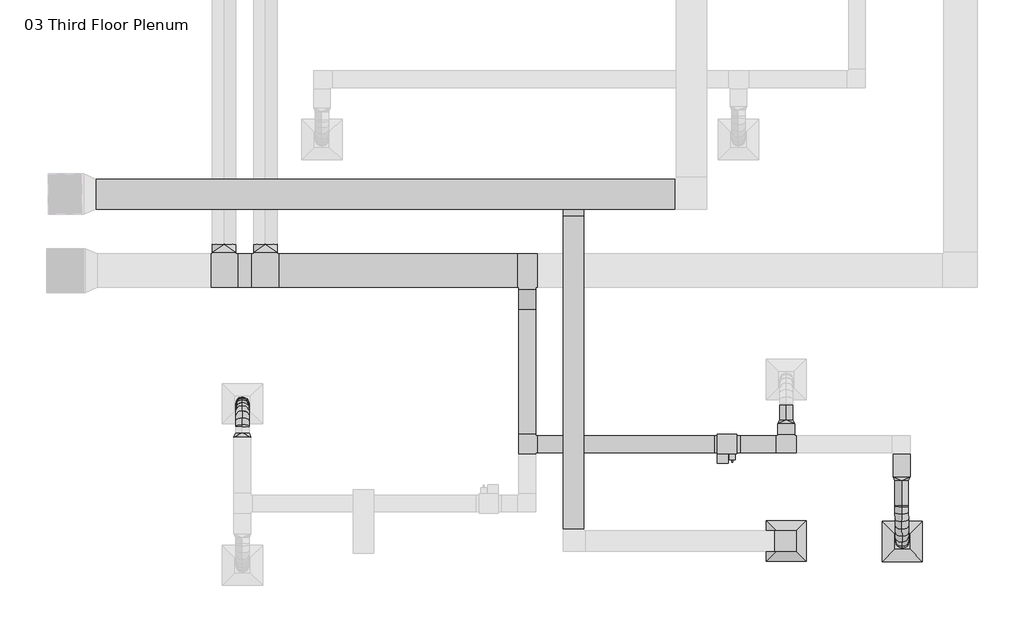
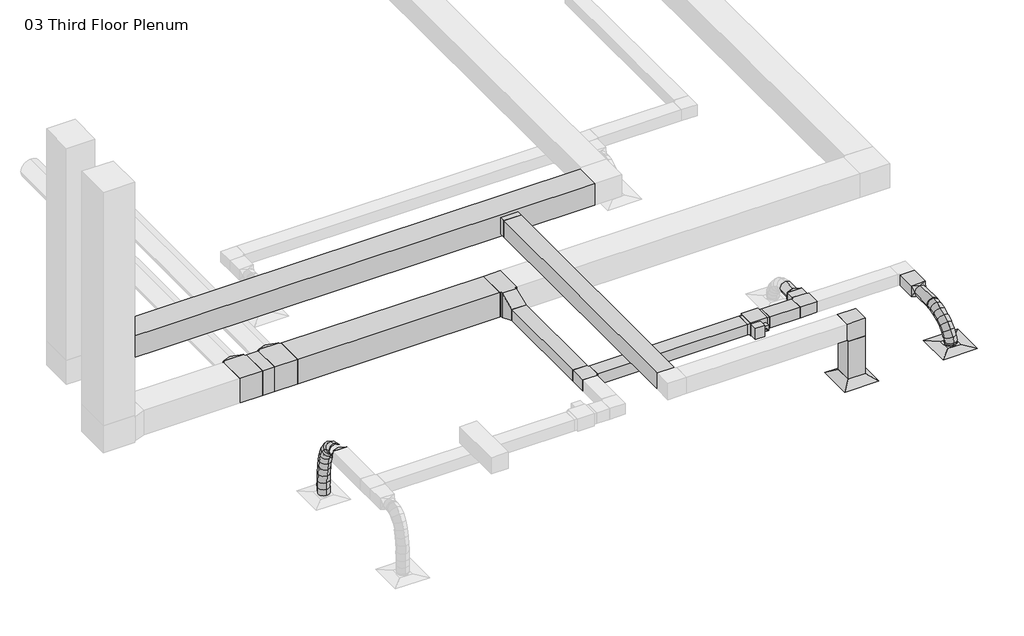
# One storey, part 2 of 9: 14 duct segments, 13 duct fittings, 2 air terminals, 1 proxy.
"""IFC4 building model written with IfcOpenShell, lengths in millimetres."""

from ifc_helpers import new_model, si_unit, point, frame, frame_2d, origin, place, context, project, spatial, polyline, circle_curve, ellipse_curve, trimmed, segment, composite_curve, outline, extrude, transform, mapped, element, save
from ifc_brep_helpers import plane_surface, cylinder_surface, advanced_brep
from components import return_diffuser_d30_returndiffuser_24x24_12x12_connection_ff543d60, supply_diffuser_rectangular_face_round_neck_d30_6390248a, bcn6785_vav_d30_vav1_8c327968, rectangular_elbow_mitered_standard_4ff1c4e8, rectangular_takeoff_standard_087f681d, rectangular_tee_standard_b316833c, rectangular_tee_standard_fc6ba10c, rectangular_tee_standard_dc794bcd, rectangular_transition_angle_45_degree_e9be1a90, rectangular_to_round_transition_angle_45_degree_e9430680, rectangular_to_round_transition_angle_45_degree_42cd8d9c

model = new_model("IFC4")

# Units and contexts
model_context = context("Model", 3, world=origin())
ifc_project = project(units=[si_unit("LENGTHUNIT", "METRE", prefix="MILLI")], contexts=[model_context])

# Site, building, storey
site = spatial("IfcSite", under=ifc_project)
building = spatial("IfcBuilding", under=site)
storey = spatial("IfcBuildingStorey", under=building, Name="03 Third Floor Plenum", Elevation=7620.0)

# Air terminals
placement = place(None, origin())
return_diffuser_d30_returndiffuser_24x24_12x12_connection_shape = return_diffuser_d30_returndiffuser_24x24_12x12_connection_ff543d60(model_context)
element("IfcAirTerminal", 1, ObjectType="Return Diffuser : D30_ReturnDiffuser_24x24 12x12 Connection", at=placement, inside=storey, context=model_context, shape_type="MappedRepresentation", body=[
    mapped(return_diffuser_d30_returndiffuser_24x24_12x12_connection_shape, transform((-6540.6685181, -5438.1828325, 7620.0), x_axis=(1.0, 0.0, 0.0), y_axis=(0.0, 1.0, 0.0), z_axis=(0.0, 0.0, 1.0))),
])
supply_diffuser_rectangular_face_round_neck_d30_shape = supply_diffuser_rectangular_face_round_neck_d30_6390248a(model_context)
element("IfcAirTerminal", 2, ObjectType="Supply Diffuser - Rectangular Face Round Neck : D30_SupplyDiffuser_24x24 8 Neck", at=placement, inside=storey, context=model_context, shape_type="MappedRepresentation", body=[
    mapped(supply_diffuser_rectangular_face_round_neck_d30_shape, transform((-4789.2792617, -5442.9453325, 7620.0), x_axis=(1.0, 0.0, 0.0), y_axis=(0.0, 1.0, 0.0), z_axis=(0.0, 0.0, 1.0))),
])

# Proxy
bcn6785_vav_d30_vav1_shape = bcn6785_vav_d30_vav1_8c327968(model_context)
element("IfcBuildingElementProxy", 3, Name="BCN6785_VAV : D30_VAV1", ObjectType="BCN6785_VAV : D30_VAV1", at=placement, inside=storey, context=model_context, shape_type="MappedRepresentation", body=[
    mapped(bcn6785_vav_d30_vav1_shape, transform((-7579.2653729, -3975.0664214, 7956.55), x_axis=(1.0, 0.0, 0.0), y_axis=(0.0, 1.0, 0.0), z_axis=(0.0, 0.0, 1.0))),
])

# Duct fittings
rectangular_elbow_mitered_standard_shape = rectangular_elbow_mitered_standard_4ff1c4e8(model_context)
element("IfcDuctFitting", 4, ObjectType="Rectangular Elbow - Mitered : Standard", at=placement, inside=storey, context=model_context, shape_type="MappedRepresentation", body=[
    mapped(rectangular_elbow_mitered_standard_shape, transform((-6540.6685181, -5438.1828325, 8610.6), x_axis=(0.0, 0.0, 1.0), y_axis=(-1.0, 0.0, 0.0), z_axis=(0.0, -1.0, 0.0))),
])
rectangular_takeoff_standard_shape = rectangular_takeoff_standard_087f681d(model_context)
element("IfcDuctFitting", 5, ObjectType="Rectangular Takeoff : Standard", at=placement, inside=storey, context=model_context, shape_type="MappedRepresentation", body=[
    mapped(rectangular_takeoff_standard_shape, transform((-9752.7160069, -429.9156743, 8610.6), x_axis=(0.0, -1.0, 0.0), y_axis=(-1.0, 0.0, 0.0), z_axis=(0.0, 0.0, -1.0))),
])
rectangular_tee_standard_shape = rectangular_tee_standard_b316833c(model_context)
element("IfcDuctFitting", 6, ObjectType="Rectangular Tee : Standard", at=placement, inside=storey, context=model_context, shape_type="MappedRepresentation", body=[
    mapped(rectangular_tee_standard_shape, transform((-10449.5105117, -3975.0664214, 8077.2), x_axis=(0.0, 1.0, 0.0), y_axis=(-1.0, 0.0, 0.0), z_axis=(0.0, 0.0, 1.0))),
])
element("IfcDuctFitting", 7, ObjectType="Rectangular Tee : Standard", at=placement, inside=storey, context=model_context, shape_type="MappedRepresentation", body=[
    mapped(rectangular_tee_standard_shape, transform((-6540.6685181, -3975.0664214, 8077.2), x_axis=(-1.0, 0.0, 0.0), y_axis=(0.0, -1.0, 0.0), z_axis=(0.0, 0.0, 1.0))),
])
rectangular_tee_standard_2_shape = rectangular_tee_standard_fc6ba10c(model_context)
element("IfcDuctFitting", 8, ObjectType="Rectangular Tee : Standard", at=placement, inside=storey, context=model_context, shape_type="MappedRepresentation", body=[
    mapped(rectangular_tee_standard_2_shape, transform((-10449.5105117, -1355.9265825, 8077.2), x_axis=(1.0, 0.0, 0.0), y_axis=(0.0, 1.0, 0.0), z_axis=(0.0, 0.0, 1.0))),
])
rectangular_tee_standard_3_shape = rectangular_tee_standard_dc794bcd(model_context)
element("IfcDuctFitting", 9, ObjectType="Rectangular Tee : Standard", at=placement, inside=storey, context=model_context, shape_type="MappedRepresentation", body=[
    mapped(rectangular_tee_standard_3_shape, transform((-14404.5975883, -1355.9265825, 8077.2), x_axis=(-1.0, 0.0, 0.0), y_axis=(0.0, -1.0, 0.0), z_axis=(0.0, 0.0, 1.0))),
])
element("IfcDuctFitting", 10, ObjectType="Rectangular Tee : Standard", at=placement, inside=storey, context=model_context, shape_type="MappedRepresentation", body=[
    mapped(rectangular_tee_standard_3_shape, transform((-15027.4046386, -1355.9265825, 8077.2), x_axis=(-1.0, 0.0, 0.0), y_axis=(0.0, -1.0, 0.0), z_axis=(0.0, 0.0, 1.0))),
])
rectangular_transition_angle_45_degree_shape = rectangular_transition_angle_45_degree_e9be1a90(model_context)
element("IfcDuctFitting", 11, ObjectType="Rectangular Transition - Angle : 45 Degree", at=placement, inside=storey, context=model_context, shape_type="MappedRepresentation", body=[
    mapped(rectangular_transition_angle_45_degree_shape, transform((-10449.5105117, -1635.3265825, 8077.2), x_axis=(0.0, -1.0, 0.0), y_axis=(1.0, 0.0, 0.0), z_axis=(0.0, 0.0, 1.0))),
])
rectangular_to_round_transition_angle_45_degree_shape = rectangular_to_round_transition_angle_45_degree_e9430680(model_context)
element("IfcDuctFitting", 12, ObjectType="Rectangular to Round Transition - Angle : 45 Degree", at=placement, inside=storey, context=model_context, shape_type="MappedRepresentation", body=[
    mapped(rectangular_to_round_transition_angle_45_degree_shape, transform((-4797.9653729, -4464.0164214, 8077.2), x_axis=(0.0, -1.0, 0.0), y_axis=(1.0, 0.0, 0.0), z_axis=(0.0, 0.0, 1.0))),
])
element("IfcDuctFitting", 13, ObjectType="Rectangular to Round Transition - Angle : 45 Degree", at=placement, inside=storey, context=model_context, shape_type="MappedRepresentation", body=[
    mapped(rectangular_to_round_transition_angle_45_degree_shape, transform((-6540.6685181, -3670.2664214, 8077.2), x_axis=(0.0, 1.0, 0.0), y_axis=(-1.0, 0.0, 0.0), z_axis=(0.0, 0.0, 1.0))),
])
element("IfcDuctFitting", 14, ObjectType="Rectangular to Round Transition - Angle : 45 Degree", at=placement, inside=storey, context=model_context, shape_type="MappedRepresentation", body=[
    mapped(rectangular_to_round_transition_angle_45_degree_shape, transform((-14752.2538818, -3867.6465968, 8077.2), x_axis=(0.0, 1.0, 0.0), y_axis=(-1.0, 0.0, 0.0), z_axis=(0.0, 0.0, 1.0))),
])
rectangular_to_round_transition_angle_45_degree_2_shape = rectangular_to_round_transition_angle_45_degree_42cd8d9c(model_context)
element("IfcDuctFitting", 15, ObjectType="Rectangular to Round Transition - Angle : 45 Degree", at=placement, inside=storey, context=model_context, shape_type="MappedRepresentation", body=[
    mapped(rectangular_to_round_transition_angle_45_degree_2_shape, transform((-14404.5975883, -1076.5265825, 8077.2), x_axis=(0.0, 1.0, 0.0), y_axis=(-1.0, 0.0, 0.0), z_axis=(0.0, 0.0, 1.0))),
])
element("IfcDuctFitting", 16, ObjectType="Rectangular to Round Transition - Angle : 45 Degree", at=placement, inside=storey, context=model_context, shape_type="MappedRepresentation", body=[
    mapped(rectangular_to_round_transition_angle_45_degree_2_shape, transform((-15027.4046386, -1076.5265825, 8077.2), x_axis=(0.0, 1.0, 0.0), y_axis=(-1.0, 0.0, 0.0), z_axis=(0.0, 0.0, 1.0))),
])

# Duct segments
element("IfcDuctSegment", 17, ObjectType="Flex - Round", at=placement, inside=storey, context=model_context, shape_type="AdvancedBrep", body=[
    advanced_brep(
    [(-4696.3653729, -4906.3374458, 8077.2), (-4797.9653729, -4906.3374458, 7975.6), (-4899.5653729, -4906.3374458, 8077.2), (-4797.9653729, -4906.3374458, 8178.8), (-4696.3653729, -4916.7494164, 8077.2), (-4797.9653729, -4911.029317, 7975.6), (-4899.5653729, -4917.2937459, 8077.2), (-4797.9653729, -4923.0138453, 8178.8), (-4687.6934547, -5441.2471497, 7673.975), (-4787.5810788, -5544.5311395, 7673.975), (-4890.8650686, -5444.6435153, 7673.975), (-4790.9774445, -5341.3595256, 7673.975), (-4695.8873742, -5005.6576946, 8066.6758774), (-4797.5609736, -4986.2480168, 7966.6963205), (-4899.081062, -5007.3760912, 8066.5369024), (-4797.4074626, -5026.7857689, 8166.5164594), (-4694.652595, -5109.204036, 8036.6197325), (-4796.5076566, -5074.5772767, 7941.0572009), (-4897.8340951, -5111.9444759, 8036.1840915), (-4795.9790335, -5146.5712352, 8131.7466232), (-4692.9609961, -5209.8047292, 7989.3116852), (-4795.0583817, -5160.7667696, 7900.5261023), (-4896.1322861, -5213.1523705, 7988.5905043), (-4794.0349005, -5262.1903301, 8077.3760872), (-4691.1151896, -5300.3855473, 7927.0748516), (-4793.5132463, -5236.5925016, 7848.4272853), (-4894.2807975, -5304.012032, 7926.1620812), (-4791.8827407, -5367.8050777, 8004.8096475), (-4689.4186979, -5373.881551, 7852.2343058), (-4792.1824991, -5294.2435973, 7789.7215155), (-4892.5838812, -5377.5264291, 7851.3028054), (-4789.82008, -5457.1643828, 7913.8155956), (-4688.1760647, -5423.2106014, 7767.111064), (-4791.2878035, -5329.7604998, 7728.4328053), (-4891.3447684, -5426.7157307, 7766.4207173), (-4788.2330295, -5520.1658323, 7805.098976), (-4687.6934547, -5441.2471497, 7693.4343815), (-4790.9774445, -5341.3595256, 7681.0524682), (-4890.8650686, -5444.6435153, 7693.1883185), (-4787.5810788, -5544.5311395, 7705.5702318)],
    [
        (0, 1, circle_curve(frame((-4797.9653729, -4906.3374458, 8077.2), z_axis=(0.0, 1.0, 0.0), x_axis=(1.0, 0.0, 0.0)), 101.6)),
        (1, 2, circle_curve(frame((-4797.9653729, -4906.3374458, 8077.2), z_axis=(0.0, 1.0, 0.0), x_axis=(1.0, 0.0, 0.0)), 101.6)),
        (2, 3, circle_curve(frame((-4797.9653729, -4906.3374458, 8077.2), z_axis=(0.0, 1.0, 0.0), x_axis=(1.0, 0.0, 0.0)), 101.6)),
        (3, 0, circle_curve(frame((-4797.9653729, -4906.3374458, 8077.2), z_axis=(0.0, 1.0, 0.0), x_axis=(1.0, 0.0, 0.0)), 101.6)),
        (0, 4),
        (4, 5, ellipse_curve(frame((-4797.9653729, -4917.0215812, 8077.2), z_axis=(-0.0026741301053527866, 0.9982616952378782, 0.05887645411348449), x_axis=(0.04529369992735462, 0.058937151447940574, -0.9972336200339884)), 101.7769193, 101.6)),
        (5, 1),
        (5, 6, ellipse_curve(frame((-4797.9653729, -4917.0215812, 8077.2), z_axis=(-0.0026741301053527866, 0.9982616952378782, 0.05887645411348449), x_axis=(0.04529369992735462, 0.058937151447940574, -0.9972336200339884)), 101.7769193, 101.6)),
        (6, 2),
        (6, 7, ellipse_curve(frame((-4797.9653729, -4917.0215812, 8077.2), z_axis=(-0.0026741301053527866, 0.9982616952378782, 0.05887645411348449), x_axis=(0.04529369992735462, 0.058937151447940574, -0.9972336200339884)), 101.7769193, 101.6)),
        (7, 3),
        (7, 4, ellipse_curve(frame((-4797.9653729, -4917.0215812, 8077.2), z_axis=(-0.0026741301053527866, 0.9982616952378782, 0.05887645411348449), x_axis=(0.04529369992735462, 0.058937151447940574, -0.9972336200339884)), 101.7769193, 101.6)),
        (8, 9, circle_curve(frame((-4789.2792617, -5442.9453325, 7673.975), z_axis=(0.0, 0.0, -1.0), x_axis=(0.9998603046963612, 0.016714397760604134, 0.0)), 101.6)),
        (9, 10, circle_curve(frame((-4789.2792617, -5442.9453325, 7673.975), z_axis=(0.0, 0.0, -1.0), x_axis=(0.9998603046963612, 0.016714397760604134, 0.0)), 101.6)),
        (10, 11, circle_curve(frame((-4789.2792617, -5442.9453325, 7673.975), z_axis=(0.0, 0.0, -1.0), x_axis=(0.9998603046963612, 0.016714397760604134, 0.0)), 101.6)),
        (11, 8, circle_curve(frame((-4789.2792617, -5442.9453325, 7673.975), z_axis=(0.0, 0.0, -1.0), x_axis=(0.9998603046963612, 0.016714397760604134, 0.0)), 101.6)),
        (4, 12),
        (12, 13, ellipse_curve(frame((-4797.4842181, -5006.5168929, 8066.6063899), z_axis=(-0.008423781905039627, 0.9799997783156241, 0.198820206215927), x_axis=(0.03713472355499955, 0.19899669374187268, -0.9792963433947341)), 101.9458531, 101.6)),
        (13, 5),
        (13, 14, ellipse_curve(frame((-4797.4842181, -5006.5168929, 8066.6063899), z_axis=(-0.008423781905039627, 0.9799997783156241, 0.198820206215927), x_axis=(0.03713472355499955, 0.19899669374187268, -0.9792963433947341)), 101.9458531, 101.6)),
        (14, 6),
        (14, 15, ellipse_curve(frame((-4797.4842181, -5006.5168929, 8066.6063899), z_axis=(-0.008423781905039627, 0.9799997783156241, 0.198820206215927), x_axis=(0.03713472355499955, 0.19899669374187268, -0.9792963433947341)), 101.9458531, 101.6)),
        (15, 7),
        (15, 12, ellipse_curve(frame((-4797.4842181, -5006.5168929, 8066.6063899), z_axis=(-0.008423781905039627, 0.9799997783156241, 0.198820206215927), x_axis=(0.03713472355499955, 0.19899669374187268, -0.9792963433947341)), 101.9458531, 101.6)),
        (12, 16),
        (16, 17, ellipse_curve(frame((-4796.2433451, -5110.5742559, 8036.401912), z_axis=(-0.01337430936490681, 0.9354479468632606, 0.35321136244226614), x_axis=(0.023979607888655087, 0.353441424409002, -0.9351492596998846)), 101.9142373, 101.6)),
        (17, 13),
        (17, 18, ellipse_curve(frame((-4796.2433451, -5110.5742559, 8036.401912), z_axis=(-0.01337430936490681, 0.9354479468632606, 0.35321136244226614), x_axis=(0.023979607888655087, 0.353441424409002, -0.9351492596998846)), 101.9142373, 101.6)),
        (18, 14),
        (18, 19, ellipse_curve(frame((-4796.2433451, -5110.5742559, 8036.401912), z_axis=(-0.01337430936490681, 0.9354479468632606, 0.35321136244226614), x_axis=(0.023979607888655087, 0.353441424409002, -0.9351492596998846)), 101.9142373, 101.6)),
        (19, 15),
        (19, 16, ellipse_curve(frame((-4796.2433451, -5110.5742559, 8036.401912), z_axis=(-0.01337430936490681, 0.9354479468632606, 0.35321136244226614), x_axis=(0.023979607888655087, 0.353441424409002, -0.9351492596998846)), 101.9142373, 101.6)),
        (16, 20),
        (20, 21, ellipse_curve(frame((-4794.5466411, -5211.4785499, 7988.9510947), z_axis=(-0.016056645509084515, 0.8673159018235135, 0.4974990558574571), x_axis=(0.009726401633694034, 0.4976751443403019, -0.8673089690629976)), 101.9359642, 101.6)),
        (21, 17),
        (21, 22, ellipse_curve(frame((-4794.5466411, -5211.4785499, 7988.9510947), z_axis=(-0.016056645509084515, 0.8673159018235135, 0.4974990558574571), x_axis=(0.009726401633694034, 0.4976751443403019, -0.8673089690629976)), 101.9359642, 101.6)),
        (22, 18),
        (22, 23, ellipse_curve(frame((-4794.5466411, -5211.4785499, 7988.9510947), z_axis=(-0.016056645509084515, 0.8673159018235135, 0.4974990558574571), x_axis=(0.009726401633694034, 0.4976751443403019, -0.8673089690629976)), 101.9359642, 101.6)),
        (23, 19),
        (23, 20, ellipse_curve(frame((-4794.5466411, -5211.4785499, 7988.9510947), z_axis=(-0.016056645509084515, 0.8673159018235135, 0.4974990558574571), x_axis=(0.009726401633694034, 0.4976751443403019, -0.8673089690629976)), 101.9359642, 101.6)),
        (20, 24),
        (24, 25, ellipse_curve(frame((-4792.6979935, -5302.1987896, 7926.6184664), z_axis=(-0.016558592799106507, 0.7658732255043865, 0.6427783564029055), x_axis=(-0.0032346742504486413, 0.6428220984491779, -0.7660086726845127)), 102.0720954, 101.6)),
        (25, 21),
        (25, 26, ellipse_curve(frame((-4792.6979935, -5302.1987896, 7926.6184664), z_axis=(-0.016558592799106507, 0.7658732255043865, 0.6427783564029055), x_axis=(-0.0032346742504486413, 0.6428220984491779, -0.7660086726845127)), 102.0720954, 101.6)),
        (26, 22),
        (26, 27, ellipse_curve(frame((-4792.6979935, -5302.1987896, 7926.6184664), z_axis=(-0.016558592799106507, 0.7658732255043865, 0.6427783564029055), x_axis=(-0.0032346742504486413, 0.6428220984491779, -0.7660086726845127)), 102.0720954, 101.6)),
        (27, 23),
        (27, 24, ellipse_curve(frame((-4792.6979935, -5302.1987896, 7926.6184664), z_axis=(-0.016558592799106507, 0.7658732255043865, 0.6427783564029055), x_axis=(-0.0032346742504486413, 0.6428220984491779, -0.7660086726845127)), 102.0720954, 101.6)),
        (24, 28),
        (28, 29, ellipse_curve(frame((-4791.0012896, -5375.7039901, 7851.7685556), z_axis=(-0.014514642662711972, 0.6057348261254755, 0.795534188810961), x_axis=(-0.014140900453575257, 0.7954140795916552, -0.6059013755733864)), 102.4061871, 101.6)),
        (29, 25),
        (29, 30, ellipse_curve(frame((-4791.0012896, -5375.7039901, 7851.7685556), z_axis=(-0.014514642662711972, 0.6057348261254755, 0.795534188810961), x_axis=(-0.014140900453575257, 0.7954140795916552, -0.6059013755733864)), 102.4061871, 101.6)),
        (30, 26),
        (30, 31, ellipse_curve(frame((-4791.0012896, -5375.7039901, 7851.7685556), z_axis=(-0.014514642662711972, 0.6057348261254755, 0.795534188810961), x_axis=(-0.014140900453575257, 0.7954140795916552, -0.6059013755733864)), 102.4061871, 101.6)),
        (31, 27),
        (31, 28, ellipse_curve(frame((-4791.0012896, -5375.7039901, 7851.7685556), z_axis=(-0.014514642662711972, 0.6057348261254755, 0.795534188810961), x_axis=(-0.014140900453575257, 0.7954140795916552, -0.6059013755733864)), 102.4061871, 101.6)),
        (28, 32),
        (32, 33, ellipse_curve(frame((-4789.7604165, -5424.9631661, 7766.7658906), z_axis=(-0.009593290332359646, 0.3733569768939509, 0.9276381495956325), x_axis=(-0.022050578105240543, 0.927376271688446, -0.3734796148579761)), 102.6416931, 101.6)),
        (33, 29),
        (33, 34, ellipse_curve(frame((-4789.7604165, -5424.9631661, 7766.7658906), z_axis=(-0.009593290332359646, 0.3733569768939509, 0.9276381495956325), x_axis=(-0.022050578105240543, 0.927376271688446, -0.3734796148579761)), 102.6416931, 101.6)),
        (34, 30),
        (34, 35, ellipse_curve(frame((-4789.7604165, -5424.9631661, 7766.7658906), z_axis=(-0.009593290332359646, 0.3733569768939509, 0.9276381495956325), x_axis=(-0.022050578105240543, 0.927376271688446, -0.3734796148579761)), 102.6416931, 101.6)),
        (35, 31),
        (35, 32, ellipse_curve(frame((-4789.7604165, -5424.9631661, 7766.7658906), z_axis=(-0.009593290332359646, 0.3733569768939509, 0.9276381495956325), x_axis=(-0.022050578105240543, 0.927376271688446, -0.3734796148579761)), 102.6416931, 101.6)),
        (32, 36),
        (36, 37, ellipse_curve(frame((-4789.2792617, -5442.9453325, 7693.31135), z_axis=(-0.0032042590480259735, 0.11975254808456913, 0.9927985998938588), x_axis=(-0.026555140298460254, 0.9924433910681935, -0.11979540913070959)), 102.3369695, 101.6)),
        (37, 33),
        (37, 38, ellipse_curve(frame((-4789.2792617, -5442.9453325, 7693.31135), z_axis=(-0.0032042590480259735, 0.11975254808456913, 0.9927985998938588), x_axis=(-0.026555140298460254, 0.9924433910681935, -0.11979540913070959)), 102.3369695, 101.6)),
        (38, 34),
        (38, 39, ellipse_curve(frame((-4789.2792617, -5442.9453325, 7693.31135), z_axis=(-0.0032042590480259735, 0.11975254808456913, 0.9927985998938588), x_axis=(-0.026555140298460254, 0.9924433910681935, -0.11979540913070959)), 102.3369695, 101.6)),
        (39, 35),
        (39, 36, ellipse_curve(frame((-4789.2792617, -5442.9453325, 7693.31135), z_axis=(-0.0032042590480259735, 0.11975254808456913, 0.9927985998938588), x_axis=(-0.026555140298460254, 0.9924433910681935, -0.11979540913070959)), 102.3369695, 101.6)),
        (36, 8),
        (11, 37),
        (10, 38),
        (9, 39),
    ],
    [
        plane_surface(frame((-4899.5653729, -4906.3374458, 8077.2), z_axis=(0.0, 1.0, 0.0), x_axis=(0.0, 0.0, -1.0))),
        cylinder_surface(frame((-4797.9653729, -4906.3374458, 8077.2), z_axis=(0.0, 1.0, 0.0), x_axis=(1.0, 0.0, 0.0)), 101.6),
        plane_surface(frame((-4789.2792617, -5544.5453325, 7673.975), z_axis=(0.0, 0.0, -1.0), x_axis=(-1.0, 0.0, 0.0))),
        cylinder_surface(frame((-4797.9653729, -4917.0215812, 8077.2), z_axis=(-0.005338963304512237, 0.9930528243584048, 0.11754821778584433), x_axis=(0.9999856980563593, 0.005338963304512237, 0.00031488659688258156)), 101.6),
        cylinder_surface(frame((-4797.4842181, -5006.5168929, 8066.6063899), z_axis=(-0.011451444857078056, 0.9602974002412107, 0.2787431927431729), x_axis=(0.9999329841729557, 0.01147155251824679, 0.0015590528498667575)), 101.6),
        cylinder_surface(frame((-4796.2433451, -5110.5742559, 8036.401912), z_axis=(-0.015214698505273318, 0.9048298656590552, 0.4255013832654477), x_axis=(0.9998770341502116, 0.015384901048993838, 0.0030366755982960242)), 101.6),
        cylinder_surface(frame((-4794.5466411, -5211.4785499, 7988.9510947), z_axis=(-0.016792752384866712, 0.824084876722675, 0.5662173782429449), x_axis=(0.9998384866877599, 0.017467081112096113, 0.004231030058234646)), 101.6),
        cylinder_surface(frame((-4792.6979935, -5302.1987896, 7926.6184664), z_axis=(-0.016171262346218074, 0.7005770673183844, 0.7133934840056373), x_axis=(0.9998232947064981, 0.018169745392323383, 0.004820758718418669)), 101.6),
        cylinder_surface(frame((-4791.0012896, -5375.7039901, 7851.7685556), z_axis=(-0.012629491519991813, 0.5013553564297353, 0.8651492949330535), x_axis=(0.9998328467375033, 0.01777111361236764, 0.004297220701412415)), 101.6),
        cylinder_surface(frame((-4789.7604165, -5424.9631661, 7766.7658906), z_axis=(-0.006362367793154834, 0.2377803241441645, 0.9712981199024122), x_axis=(0.9998526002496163, 0.017002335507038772, 0.00238712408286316)), 101.6),
        cylinder_surface(frame((-4789.2792617, -5442.9453325, 7693.31135), z_axis=(0.0, 0.0, 1.0), x_axis=(0.9998603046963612, 0.016714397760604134, 0.0)), 101.6),
    ],
    [
        (0, [[1, 2, 3, 4]]),
        (1, [[-1, 5, 6, 7]]),
        (1, [[-2, -7, 8, 9]]),
        (1, [[-3, -9, 10, 11]]),
        (1, [[-4, -11, 12, -5]]),
        (2, [[13, 14, 15, 16]]),
        (3, [[-6, 17, 18, 19]]),
        (3, [[-8, -19, 20, 21]]),
        (3, [[-10, -21, 22, 23]]),
        (3, [[-12, -23, 24, -17]]),
        (4, [[-18, 25, 26, 27]]),
        (4, [[-20, -27, 28, 29]]),
        (4, [[-22, -29, 30, 31]]),
        (4, [[-24, -31, 32, -25]]),
        (5, [[-26, 33, 34, 35]]),
        (5, [[-28, -35, 36, 37]]),
        (5, [[-30, -37, 38, 39]]),
        (5, [[-32, -39, 40, -33]]),
        (6, [[-34, 41, 42, 43]]),
        (6, [[-36, -43, 44, 45]]),
        (6, [[-38, -45, 46, 47]]),
        (6, [[-40, -47, 48, -41]]),
        (7, [[-42, 49, 50, 51]]),
        (7, [[-44, -51, 52, 53]]),
        (7, [[-46, -53, 54, 55]]),
        (7, [[-48, -55, 56, -49]]),
        (8, [[-50, 57, 58, 59]]),
        (8, [[-52, -59, 60, 61]]),
        (8, [[-54, -61, 62, 63]]),
        (8, [[-56, -63, 64, -57]]),
        (9, [[-58, 65, 66, 67]]),
        (9, [[-60, -67, 68, 69]]),
        (9, [[-62, -69, 70, 71]]),
        (9, [[-64, -71, 72, -65]]),
        (10, [[-66, 73, -16, 74]]),
        (10, [[-68, -74, -15, 75]]),
        (10, [[-70, -75, -14, 76]]),
        (10, [[-72, -76, -13, -73]]),
    ],
),
])
element("IfcDuctSegment", 18, ObjectType="Flex - Round", at=placement, inside=storey, context=model_context, shape_type="AdvancedBrep", body=[
    advanced_brep(
    [(-14853.8538818, -3715.2465968, 8077.2), (-14752.2538818, -3715.2465968, 7975.6), (-14650.6538818, -3715.2465968, 8077.2), (-14752.2538818, -3715.2465968, 8178.8), (-14853.8538818, -3695.9300446, 8077.2), (-14752.2538818, -3708.0503883, 7975.6), (-14650.6538818, -3695.923682, 8077.2), (-14752.2538818, -3683.8033383, 8178.8), (-14854.029259, -3364.9308734, 7064.3792993), (-14752.4522964, -3263.3079383, 7064.5198042), (-14650.8292644, -3364.8847916, 7064.3707007), (-14752.4062269, -3466.5077267, 7064.2301958), (-14853.8587919, -3618.6397605, 8058.4880804), (-14752.2569043, -3660.4723136, 7964.0813839), (-14650.6587929, -3618.6182407, 8058.4844109), (-14752.2606805, -3576.7856876, 8152.8911074), (-14853.8721196, -3541.650978, 8006.1674235), (-14752.2651321, -3612.9434954, 7931.7813669), (-14650.672123, -3541.6152542, 8006.1541011), (-14752.2791104, -3470.3227368, 8080.5401577), (-14853.8917609, -3482.0544059, 7925.958949), (-14752.2790969, -3570.5709497, 7874.753972), (-14650.6917668, -3482.0111504, 7925.9354901), (-14752.3044308, -3393.4946066, 7977.1404671), (-14853.9156118, -3437.6248343, 7823.5842081), (-14752.2988092, -3533.8507754, 7790.1432455), (-14650.7156192, -3437.5788085, 7823.5543657), (-14752.3324218, -3341.3528674, 7856.9953283), (-14853.9415677, -3406.1374609, 7704.7669414), (-14752.3220747, -3505.6271763, 7683.6417959), (-14650.7415757, -3406.0907004, 7704.7343266), (-14752.3610687, -3306.6009851, 7725.8594721), (-14853.967524, -3385.3667608, 7575.2311745), (-14752.3463411, -3486.2087715, 7562.5395735), (-14650.7675319, -3385.3200205, 7575.1986862), (-14752.3887148, -3284.4780098, 7587.8902872), (-14853.9913759, -3373.0868316, 7440.700725), (-14752.3691693, -3474.4558706, 7433.7828826), (-14650.7913833, -3373.0403405, 7440.6709661), (-14752.4135899, -3271.6713015, 7447.5888085), (-14854.0110188, -3367.0716212, 7306.8991242), (-14752.3882492, -3468.6130786, 7303.8165366), (-14650.8110255, -3367.0253822, 7306.8749742), (-14752.4337951, -3265.4839248, 7309.9575618), (-14854.0243482, -3365.0950174, 7179.5494986), (-14752.4013468, -3466.670846, 7178.6813889), (-14650.8243539, -3365.0489271, 7179.5349231), (-14752.4473553, -3263.4730986, 7180.4030328)],
    [
        (0, 1, circle_curve(frame((-14752.2538818, -3715.2465968, 8077.2), z_axis=(0.0, -1.0, 0.0), x_axis=(-1.0, 0.0, 0.0)), 101.6)),
        (1, 2, circle_curve(frame((-14752.2538818, -3715.2465968, 8077.2), z_axis=(0.0, -1.0, 0.0), x_axis=(-1.0, 0.0, 0.0)), 101.6)),
        (2, 3, circle_curve(frame((-14752.2538818, -3715.2465968, 8077.2), z_axis=(0.0, -1.0, 0.0), x_axis=(-1.0, 0.0, 0.0)), 101.6)),
        (3, 0, circle_curve(frame((-14752.2538818, -3715.2465968, 8077.2), z_axis=(0.0, -1.0, 0.0), x_axis=(-1.0, 0.0, 0.0)), 101.6)),
        (0, 4),
        (4, 5, ellipse_curve(frame((-14752.2538818, -3695.9268633, 8077.2), z_axis=(3.1091524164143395e-05, -0.9929557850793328, 0.11848547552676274), x_axis=(-0.0002605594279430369, -0.1184854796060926, -0.992955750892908)), 102.3207695, 101.6)),
        (5, 1),
        (5, 6, ellipse_curve(frame((-14752.2538818, -3695.9268633, 8077.2), z_axis=(3.1091524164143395e-05, -0.9929557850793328, 0.11848547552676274), x_axis=(-0.0002605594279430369, -0.1184854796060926, -0.992955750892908)), 102.3207695, 101.6)),
        (6, 2),
        (6, 7, ellipse_curve(frame((-14752.2538818, -3695.9268633, 8077.2), z_axis=(3.1091524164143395e-05, -0.9929557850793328, 0.11848547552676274), x_axis=(-0.0002605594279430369, -0.1184854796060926, -0.992955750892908)), 102.3207695, 101.6)),
        (7, 3),
        (7, 4, ellipse_curve(frame((-14752.2538818, -3695.9268633, 8077.2), z_axis=(3.1091524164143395e-05, -0.9929557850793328, 0.11848547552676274), x_axis=(-0.0002605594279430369, -0.1184854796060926, -0.992955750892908)), 102.3207695, 101.6)),
        (8, 9, circle_curve(frame((-14752.4292617, -3364.9078325, 7064.375), z_axis=(-4.263914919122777e-05, 0.0014252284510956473, -0.9999989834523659), x_axis=(-0.9999999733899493, -0.0002267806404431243, 4.2315976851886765e-05)), 101.6)),
        (9, 10, circle_curve(frame((-14752.4292617, -3364.9078325, 7064.375), z_axis=(-4.263914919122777e-05, 0.0014252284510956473, -0.9999989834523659), x_axis=(-0.9999999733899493, -0.0002267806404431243, 4.2315976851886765e-05)), 101.6)),
        (10, 11, circle_curve(frame((-14752.4292617, -3364.9078325, 7064.375), z_axis=(-4.263914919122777e-05, 0.0014252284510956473, -0.9999989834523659), x_axis=(-0.9999999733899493, -0.0002267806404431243, 4.2315976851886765e-05)), 101.6)),
        (11, 8, circle_curve(frame((-14752.4292617, -3364.9078325, 7064.375), z_axis=(-4.263914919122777e-05, 0.0014252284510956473, -0.9999989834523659), x_axis=(-0.9999999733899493, -0.0002267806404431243, 4.2315976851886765e-05)), 101.6)),
        (4, 12),
        (12, 13, ellipse_curve(frame((-14752.2587924, -3618.6290006, 8058.4862456), z_axis=(0.00010413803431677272, -0.9142222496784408, 0.4052131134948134), x_axis=(-0.00022782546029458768, -0.40521312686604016, -0.9142222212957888)), 103.2624849, 101.6)),
        (13, 5),
        (13, 14, ellipse_curve(frame((-14752.2587924, -3618.6290006, 8058.4862456), z_axis=(0.00010413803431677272, -0.9142222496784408, 0.4052131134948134), x_axis=(-0.00022782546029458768, -0.40521312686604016, -0.9142222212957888)), 103.2624849, 101.6)),
        (14, 6),
        (14, 15, ellipse_curve(frame((-14752.2587924, -3618.6290006, 8058.4862456), z_axis=(0.00010413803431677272, -0.9142222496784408, 0.4052131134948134), x_axis=(-0.00022782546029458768, -0.40521312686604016, -0.9142222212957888)), 103.2624849, 101.6)),
        (15, 7),
        (15, 12, ellipse_curve(frame((-14752.2587924, -3618.6290006, 8058.4862456), z_axis=(0.00010413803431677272, -0.9142222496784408, 0.4052131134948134), x_axis=(-0.00022782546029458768, -0.40521312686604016, -0.9142222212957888)), 103.2624849, 101.6)),
        (12, 16),
        (16, 17, ellipse_curve(frame((-14752.2721213, -3541.6331161, 8006.1607623), z_axis=(0.0001722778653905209, -0.7218421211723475, 0.6920577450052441), x_axis=(-0.00016015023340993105, -0.6920577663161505, -0.7218421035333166)), 103.0410827, 101.6)),
        (17, 13),
        (17, 18, ellipse_curve(frame((-14752.2721213, -3541.6331161, 8006.1607623), z_axis=(0.0001722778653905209, -0.7218421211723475, 0.6920577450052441), x_axis=(-0.00016015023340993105, -0.6920577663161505, -0.7218421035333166)), 103.0410827, 101.6)),
        (18, 14),
        (18, 19, ellipse_curve(frame((-14752.2721213, -3541.6331161, 8006.1607623), z_axis=(0.0001722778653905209, -0.7218421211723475, 0.6920577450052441), x_axis=(-0.00016015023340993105, -0.6920577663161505, -0.7218421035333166)), 103.0410827, 101.6)),
        (19, 15),
        (19, 16, ellipse_curve(frame((-14752.2721213, -3541.6331161, 8006.1607623), z_axis=(0.0001722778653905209, -0.7218421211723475, 0.6920577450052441), x_axis=(-0.00016015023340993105, -0.6920577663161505, -0.7218421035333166)), 103.0410827, 101.6)),
        (16, 20),
        (20, 21, ellipse_curve(frame((-14752.2917638, -3482.0327781, 7925.9472195), z_axis=(0.0002064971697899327, -0.5005550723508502, 0.8657046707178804), x_axis=(-7.491086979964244e-05, -0.8657046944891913, -0.5005550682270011)), 102.2729514, 101.6)),
        (21, 17),
        (21, 22, ellipse_curve(frame((-14752.2917638, -3482.0327781, 7925.9472195), z_axis=(0.0002064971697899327, -0.5005550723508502, 0.8657046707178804), x_axis=(-7.491086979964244e-05, -0.8657046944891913, -0.5005550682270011)), 102.2729514, 101.6)),
        (22, 18),
        (22, 23, ellipse_curve(frame((-14752.2917638, -3482.0327781, 7925.9472195), z_axis=(0.0002064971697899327, -0.5005550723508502, 0.8657046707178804), x_axis=(-7.491086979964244e-05, -0.8657046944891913, -0.5005550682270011)), 102.2729514, 101.6)),
        (23, 19),
        (23, 20, ellipse_curve(frame((-14752.2917638, -3482.0327781, 7925.9472195), z_axis=(0.0002064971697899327, -0.5005550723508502, 0.8657046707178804), x_axis=(-7.491086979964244e-05, -0.8657046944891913, -0.5005550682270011)), 102.2729514, 101.6)),
        (20, 24),
        (24, 25, ellipse_curve(frame((-14752.3156155, -3437.6018214, 7823.5692869), z_axis=(0.00021304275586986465, -0.32806652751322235, 0.9446545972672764), x_axis=(1.699930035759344e-05, -0.9446546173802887, -0.3280665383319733)), 101.8879859, 101.6)),
        (25, 21),
        (25, 26, ellipse_curve(frame((-14752.3156155, -3437.6018214, 7823.5692869), z_axis=(0.00021304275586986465, -0.32806652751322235, 0.9446545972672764), x_axis=(1.699930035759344e-05, -0.9446546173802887, -0.3280665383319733)), 101.8879859, 101.6)),
        (26, 22),
        (26, 27, ellipse_curve(frame((-14752.3156155, -3437.6018214, 7823.5692869), z_axis=(0.00021304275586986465, -0.32806652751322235, 0.9446545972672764), x_axis=(1.699930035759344e-05, -0.9446546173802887, -0.3280665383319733)), 101.8879859, 101.6)),
        (27, 23),
        (27, 24, ellipse_curve(frame((-14752.3156155, -3437.6018214, 7823.5692869), z_axis=(0.00021304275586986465, -0.32806652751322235, 0.9446545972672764), x_axis=(1.699930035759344e-05, -0.9446546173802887, -0.3280665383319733)), 101.8879859, 101.6)),
        (24, 28),
        (28, 29, ellipse_curve(frame((-14752.3415717, -3406.1140807, 7704.750634), z_axis=(0.0002047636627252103, -0.20750416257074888, 0.9782341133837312), x_axis=(0.00013309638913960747, -0.9782341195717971, -0.2075041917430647)), 101.7272806, 101.6)),
        (29, 25),
        (29, 30, ellipse_curve(frame((-14752.3415717, -3406.1140807, 7704.750634), z_axis=(0.0002047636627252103, -0.20750416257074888, 0.9782341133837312), x_axis=(0.00013309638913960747, -0.9782341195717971, -0.2075041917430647)), 101.7272806, 101.6)),
        (30, 26),
        (30, 31, ellipse_curve(frame((-14752.3415717, -3406.1140807, 7704.750634), z_axis=(0.0002047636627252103, -0.20750416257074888, 0.9782341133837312), x_axis=(0.00013309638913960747, -0.9782341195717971, -0.2075041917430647)), 101.7272806, 101.6)),
        (31, 27),
        (31, 28, ellipse_curve(frame((-14752.3415717, -3406.1140807, 7704.750634), z_axis=(0.0002047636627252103, -0.20750416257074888, 0.9782341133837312), x_axis=(0.00013309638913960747, -0.9782341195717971, -0.2075041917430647)), 101.7272806, 101.6)),
        (28, 32),
        (32, 33, ellipse_curve(frame((-14752.3675279, -3385.3433906, 7575.2149304), z_axis=(0.00018731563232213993, -0.12468537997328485, 0.9921963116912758), x_axis=(0.00031327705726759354, -0.9921962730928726, -0.12468543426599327)), 101.6586946, 101.6)),
        (33, 29),
        (33, 34, ellipse_curve(frame((-14752.3675279, -3385.3433906, 7575.2149304), z_axis=(0.00018731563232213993, -0.12468537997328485, 0.9921963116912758), x_axis=(0.00031327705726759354, -0.9921962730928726, -0.12468543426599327)), 101.6586946, 101.6)),
        (34, 30),
        (34, 35, ellipse_curve(frame((-14752.3675279, -3385.3433906, 7575.2149304), z_axis=(0.00018731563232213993, -0.12468537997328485, 0.9921963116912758), x_axis=(0.00031327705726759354, -0.9921962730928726, -0.12468543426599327)), 101.6586946, 101.6)),
        (35, 31),
        (35, 32, ellipse_curve(frame((-14752.3675279, -3385.3433906, 7575.2149304), z_axis=(0.00018731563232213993, -0.12468537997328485, 0.9921963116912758), x_axis=(0.00031327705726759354, -0.9921962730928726, -0.12468543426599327)), 101.6586946, 101.6)),
        (32, 36),
        (36, 37, ellipse_curve(frame((-14752.3913796, -3373.0635861, 7440.6858456), z_axis=(0.0001616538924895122, -0.06792446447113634, 0.9976904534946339), x_axis=(0.0006487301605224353, -0.997690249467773, -0.06792455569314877)), 101.6269982, 101.6)),
        (37, 33),
        (37, 38, ellipse_curve(frame((-14752.3913796, -3373.0635861, 7440.6858456), z_axis=(0.0001616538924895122, -0.06792446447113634, 0.9976904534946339), x_axis=(0.0006487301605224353, -0.997690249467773, -0.06792455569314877)), 101.6269982, 101.6)),
        (38, 34),
        (38, 39, ellipse_curve(frame((-14752.3913796, -3373.0635861, 7440.6858456), z_axis=(0.0001616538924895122, -0.06792446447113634, 0.9976904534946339), x_axis=(0.0006487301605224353, -0.997690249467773, -0.06792455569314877)), 101.6269982, 101.6)),
        (39, 35),
        (39, 36, ellipse_curve(frame((-14752.3913796, -3373.0635861, 7440.6858456), z_axis=(0.0001616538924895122, -0.06792446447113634, 0.9976904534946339), x_axis=(0.0006487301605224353, -0.997690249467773, -0.06792455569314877)), 101.6269982, 101.6)),
        (36, 40),
        (40, 41, ellipse_curve(frame((-14752.4110222, -3367.0485017, 7306.8870492), z_axis=(0.0001256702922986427, -0.03021828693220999, 0.9995433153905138), x_axis=(0.0014284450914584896, -0.9995422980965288, -0.03021843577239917)), 101.6109829, 101.6)),
        (41, 37),
        (41, 42, ellipse_curve(frame((-14752.4110222, -3367.0485017, 7306.8870492), z_axis=(0.0001256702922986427, -0.03021828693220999, 0.9995433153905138), x_axis=(0.0014284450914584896, -0.9995422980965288, -0.03021843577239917)), 101.6109829, 101.6)),
        (42, 38),
        (42, 43, ellipse_curve(frame((-14752.4110222, -3367.0485017, 7306.8870492), z_axis=(0.0001256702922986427, -0.03021828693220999, 0.9995433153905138), x_axis=(0.0014284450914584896, -0.9995422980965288, -0.03021843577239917)), 101.6109829, 101.6)),
        (43, 39),
        (43, 40, ellipse_curve(frame((-14752.4110222, -3367.0485017, 7306.8870492), z_axis=(0.0001256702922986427, -0.03021828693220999, 0.9995433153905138), x_axis=(0.0014284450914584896, -0.9995422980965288, -0.03021843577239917)), 101.6109829, 101.6)),
        (40, 44),
        (44, 45, ellipse_curve(frame((-14752.424351, -3365.0719723, 7179.5422108), z_axis=(7.364887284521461e-05, -0.008472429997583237, 0.999964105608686), x_axis=(0.0043999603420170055, -0.9999544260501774, -0.008472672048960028)), 101.6025231, 101.6)),
        (45, 41),
        (45, 46, ellipse_curve(frame((-14752.424351, -3365.0719723, 7179.5422108), z_axis=(7.364887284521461e-05, -0.008472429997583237, 0.999964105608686), x_axis=(0.0043999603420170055, -0.9999544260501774, -0.008472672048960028)), 101.6025231, 101.6)),
        (46, 42),
        (46, 47, ellipse_curve(frame((-14752.424351, -3365.0719723, 7179.5422108), z_axis=(7.364887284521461e-05, -0.008472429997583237, 0.999964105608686), x_axis=(0.0043999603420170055, -0.9999544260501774, -0.008472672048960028)), 101.6025231, 101.6)),
        (47, 43),
        (47, 44, ellipse_curve(frame((-14752.424351, -3365.0719723, 7179.5422108), z_axis=(7.364887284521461e-05, -0.008472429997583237, 0.999964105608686), x_axis=(0.0043999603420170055, -0.9999544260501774, -0.008472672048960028)), 101.6025231, 101.6)),
        (44, 8),
        (11, 45),
        (10, 46),
        (9, 47),
    ],
    [
        plane_surface(frame((-14853.8538818, -3715.2465968, 8077.2), z_axis=(0.0, -1.0, 0.0), x_axis=(0.0, 0.0, 1.0))),
        cylinder_surface(frame((-14752.2538818, -3715.2465968, 8077.2), z_axis=(0.0, -1.0, 0.0), x_axis=(-1.0, 0.0, 0.0)), 101.6),
        plane_surface(frame((-14752.4292617, -3466.5077293, 7064.2301968), z_axis=(-4.2639149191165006e-05, 0.001425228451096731, -0.9999989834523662), x_axis=(-0.9999999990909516, -6.077052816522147e-08, 4.2639105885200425e-05))),
        cylinder_surface(frame((-14752.2538818, -3695.9268633, 8077.2), z_axis=(6.174501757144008e-05, -0.971922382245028, 0.23530167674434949), x_axis=(-0.9999999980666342, -6.174501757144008e-05, 7.367788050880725e-06)), 101.6),
        cylinder_surface(frame((-14752.2587924, -3618.6290006, 8058.4862456), z_axis=(0.0001431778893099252, -0.8270848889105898, 0.562077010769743), x_axis=(-0.9999999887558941, -0.00014348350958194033, 4.359695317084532e-05)), 101.6),
        cylinder_surface(frame((-14752.2721213, -3541.6331161, 8006.1607623), z_axis=(0.0001965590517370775, -0.5964086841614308, 0.8026809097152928), x_axis=(-0.9999999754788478, -0.00019911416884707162, 9.69322012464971e-05)), 101.6),
        cylinder_surface(frame((-14752.2917638, -3482.0327781, 7925.9472195), z_axis=(0.00021371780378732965, -0.3981142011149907, 0.9173358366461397), x_axis=(-0.9999999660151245, -0.0002220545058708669, 0.00013660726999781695)), 101.6),
        cylinder_surface(frame((-14752.3156155, -3437.6018214, 7823.5692869), z_axis=(0.00021116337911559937, -0.2561642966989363, 0.9666332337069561), x_axis=(-0.9999999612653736, -0.00022936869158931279, 0.0001576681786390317)), 101.6),
        cylinder_surface(frame((-14752.3415717, -3406.1140807, 7704.750634), z_axis=(0.00019785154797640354, -0.15832477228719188, 0.9873870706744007), x_axis=(-0.9999999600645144, -0.00023058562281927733, 0.00016340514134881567)), 101.6),
        cylinder_surface(frame((-14752.3675279, -3385.3433906, 7575.2149304), z_axis=(0.00017656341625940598, -0.09090200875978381, 0.9958598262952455), x_axis=(-0.9999999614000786, -0.0002296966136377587, 0.00015633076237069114)), 101.6),
        cylinder_surface(frame((-14752.3913796, -3373.0635861, 7440.6858456), z_axis=(0.00014665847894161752, -0.04491083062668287, 0.9989909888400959), x_axis=(-0.9999999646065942, -0.0002283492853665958, 0.0001365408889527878)), 101.6),
        cylinder_surface(frame((-14752.4110222, -3367.0485017, 7306.8870492), z_axis=(0.00010465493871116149, -0.015519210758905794, 0.9998795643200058), x_axis=(-0.9999999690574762, -0.00022727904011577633, 0.00010113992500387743)), 101.6),
        cylinder_surface(frame((-14752.424351, -3365.0719723, 7179.5422108), z_axis=(4.263914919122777e-05, -0.0014252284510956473, 0.9999989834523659), x_axis=(-0.9999999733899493, -0.0002267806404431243, 4.2315976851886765e-05)), 101.6),
    ],
    [
        (0, [[1, 2, 3, 4]]),
        (1, [[-1, 5, 6, 7]]),
        (1, [[-2, -7, 8, 9]]),
        (1, [[-3, -9, 10, 11]]),
        (1, [[-4, -11, 12, -5]]),
        (2, [[13, 14, 15, 16]]),
        (3, [[-6, 17, 18, 19]]),
        (3, [[-8, -19, 20, 21]]),
        (3, [[-10, -21, 22, 23]]),
        (3, [[-12, -23, 24, -17]]),
        (4, [[-18, 25, 26, 27]]),
        (4, [[-20, -27, 28, 29]]),
        (4, [[-22, -29, 30, 31]]),
        (4, [[-24, -31, 32, -25]]),
        (5, [[-26, 33, 34, 35]]),
        (5, [[-28, -35, 36, 37]]),
        (5, [[-30, -37, 38, 39]]),
        (5, [[-32, -39, 40, -33]]),
        (6, [[-34, 41, 42, 43]]),
        (6, [[-36, -43, 44, 45]]),
        (6, [[-38, -45, 46, 47]]),
        (6, [[-40, -47, 48, -41]]),
        (7, [[-42, 49, 50, 51]]),
        (7, [[-44, -51, 52, 53]]),
        (7, [[-46, -53, 54, 55]]),
        (7, [[-48, -55, 56, -49]]),
        (8, [[-50, 57, 58, 59]]),
        (8, [[-52, -59, 60, 61]]),
        (8, [[-54, -61, 62, 63]]),
        (8, [[-56, -63, 64, -57]]),
        (9, [[-58, 65, 66, 67]]),
        (9, [[-60, -67, 68, 69]]),
        (9, [[-62, -69, 70, 71]]),
        (9, [[-64, -71, 72, -65]]),
        (10, [[-66, 73, 74, 75]]),
        (10, [[-68, -75, 76, 77]]),
        (10, [[-70, -77, 78, 79]]),
        (10, [[-72, -79, 80, -73]]),
        (11, [[-74, 81, 82, 83]]),
        (11, [[-76, -83, 84, 85]]),
        (11, [[-78, -85, 86, 87]]),
        (11, [[-80, -87, 88, -81]]),
        (12, [[-82, 89, -16, 90]]),
        (12, [[-84, -90, -15, 91]]),
        (12, [[-86, -91, -14, 92]]),
        (12, [[-88, -92, -13, -89]]),
    ],
),
])
element("IfcDuctSegment", 19, ObjectType="Mitered Elbows / Taps", at=placement, inside=storey, context=model_context, shape_type="SweptSolid", body=[
    extrude(outline(polyline([(-9600.3160069, -5260.3828325), (-9905.1160069, -5260.3828325), (-9905.1160069, -531.5156743), (-9600.3160069, -531.5156743), (-9600.3160069, -5260.3828325)])), frame((0.0, 0.0, 8458.2), z_axis=(0.0, 0.0, 1.0), x_axis=(1.0, 0.0, 0.0)), (0.0, 0.0, 1.0), 304.8),
])
element("IfcDuctSegment", 20, ObjectType="Mitered Elbows / Tees", at=placement, inside=storey, context=model_context, shape_type="SweptSolid", body=[
    extrude(outline(polyline([(-10297.1105117, -4102.0664214), (-10297.1105117, -3848.0664214), (-7630.0653729, -3848.0664214), (-7630.0653729, -4102.0664214), (-10297.1105117, -4102.0664214)])), frame((0.0, 0.0, 7975.6), z_axis=(0.0, 0.0, 1.0), x_axis=(1.0, 0.0, 0.0)), (0.0, 0.0, 1.0), 203.2),
])
element("IfcDuctSegment", 21, ObjectType="Mitered Elbows / Tees", at=placement, inside=storey, context=model_context, shape_type="SweptSolid", body=[
    extrude(outline(polyline([(-10576.5105117, -1941.9317049), (-10322.5105117, -1941.9317049), (-10322.5105117, -3822.6664214), (-10576.5105117, -3822.6664214), (-10576.5105117, -1941.9317049)])), frame((0.0, 0.0, 7975.6), z_axis=(0.0, 0.0, 1.0), x_axis=(1.0, 0.0, 0.0)), (0.0, 0.0, 1.0), 203.2),
])
element("IfcDuctSegment", 22, ObjectType="Mitered Elbows / Tees", at=placement, inside=storey, context=model_context, shape_type="SweptSolid", body=[
    extrude(outline(polyline([(-4924.9653729, -4127.4664214), (-4670.9653729, -4127.4664214), (-4670.9653729, -4464.0164214), (-4924.9653729, -4464.0164214), (-4924.9653729, -4127.4664214)])), frame((0.0, 0.0, 7975.6), z_axis=(0.0, 0.0, 1.0), x_axis=(1.0, 0.0, 0.0)), (0.0, 0.0, 1.0), 203.2),
])
element("IfcDuctSegment", 23, ObjectType="Mitered Elbows / Tees", at=placement, inside=storey, context=model_context, shape_type="SweptSolid", body=[
    extrude(outline(polyline([(-6413.6685181, -3822.6664214), (-6667.6685181, -3822.6664214), (-6667.6685181, -3670.2664214), (-6413.6685181, -3670.2664214), (-6413.6685181, -3822.6664214)])), frame((0.0, 0.0, 7975.6), z_axis=(0.0, 0.0, 1.0), x_axis=(1.0, 0.0, 0.0)), (0.0, 0.0, 1.0), 203.2),
])
element("IfcDuctSegment", 24, ObjectType="Mitered Elbows / Tees", at=placement, inside=storey, context=model_context, shape_type="SweptSolid", body=[
    extrude(outline(polyline([(-7236.3653729, -4102.0664214), (-7236.3653729, -3848.0664214), (-6693.0685181, -3848.0664214), (-6693.0685181, -4102.0664214), (-7236.3653729, -4102.0664214)])), frame((0.0, 0.0, 7975.6), z_axis=(0.0, 0.0, 1.0), x_axis=(1.0, 0.0, 0.0)), (0.0, 0.0, 1.0), 203.2),
])
element("IfcDuctSegment", 25, ObjectType="Mitered Elbows / Tees", at=placement, inside=storey, context=model_context, shape_type="SweptSolid", body=[
    extrude(outline(polyline([(-10601.9105117, -1101.9265825), (-10601.9105117, -1609.9265825), (-14201.3975883, -1609.9265825), (-14201.3975883, -1101.9265825), (-10601.9105117, -1101.9265825)])), frame((0.0, 0.0, 7848.6), z_axis=(0.0, 0.0, 1.0), x_axis=(1.0, 0.0, 0.0)), (0.0, 0.0, 1.0), 457.2),
])
element("IfcDuctSegment", 26, ObjectType="Mitered Elbows / Tees", at=placement, inside=storey, context=model_context, shape_type="SweptSolid", body=[
    extrude(outline(polyline([(-14607.7975883, -1101.9265825), (-14607.7975883, -1609.9265825), (-14824.2046386, -1609.9265825), (-14824.2046386, -1101.9265825), (-14607.7975883, -1101.9265825)])), frame((0.0, 0.0, 7848.6), z_axis=(0.0, 0.0, 1.0), x_axis=(1.0, 0.0, 0.0)), (0.0, 0.0, 1.0), 457.2),
])
element("IfcDuctSegment", 27, ObjectType="Mitered Elbows / Tees", at=placement, inside=storey, context=model_context, shape_type="SweptSolid", body=[
    extrude(outline(polyline([(-8226.5142705, 27.2843257), (-8226.5142705, -429.9156743), (-16965.5911882, -429.9156743), (-16965.5911882, 27.2843257), (-8226.5142705, 27.2843257)])), frame((0.0, 0.0, 8407.4), z_axis=(0.0, 0.0, 1.0), x_axis=(1.0, 0.0, 0.0)), (0.0, 0.0, 1.0), 406.4),
])
element("IfcDuctSegment", 28, ObjectType="Mitered Elbows / Tees", at=placement, inside=storey, context=model_context, shape_type="SweptSolid", body=[
    extrude(outline(polyline([(-6693.0685181, -5285.7828325), (-6388.2685181, -5285.7828325), (-6388.2685181, -5590.5828325), (-6693.0685181, -5590.5828325), (-6693.0685181, -5285.7828325)])), frame((0.0, 0.0, 7721.6), z_axis=(0.0, 0.0, 1.0), x_axis=(1.0, 0.0, 0.0)), (0.0, 0.0, 1.0), 711.2),
])
element("IfcDuctSegment", 29, ObjectType="Taps", at=placement, inside=storey, context=model_context, shape_type="SweptSolid", body=[
    extrude(outline(composite_curve([segment(trimmed(circle_curve(frame_2d((8077.2, -4797.9653729)), 101.6), [point((8077.2, -4899.5653729))], [point((7975.6, -4797.9653729))], False, "CARTESIAN"), True, "CONTINUOUS"), segment(trimmed(circle_curve(frame_2d((8077.2, -4797.9653729)), 101.6), [point((7975.6, -4797.9653729))], [point((8077.2, -4696.3653729))], False, "CARTESIAN"), True, "CONTINUOUS"), segment(trimmed(circle_curve(frame_2d((8077.2, -4797.9653729)), 101.6), [point((8077.2, -4696.3653729))], [point((8178.8, -4797.9653729))], False, "CARTESIAN"), True, "CONTINUOUS"), segment(trimmed(circle_curve(frame_2d((8077.2, -4797.9653729)), 101.6), [point((8178.8, -4797.9653729))], [point((8077.2, -4899.5653729))], False, "CARTESIAN"), True, "CONTINUOUS")], self_intersect=False)), frame((0.0, -4906.3374458, 0.0), z_axis=(0.0, 1.0, 0.0), x_axis=(0.0, 0.0, 1.0)), (0.0, 0.0, 1.0), 381.0),
])
element("IfcDuctSegment", 30, ObjectType="Taps", at=placement, inside=storey, context=model_context, shape_type="SweptSolid", body=[
    extrude(outline(composite_curve([segment(trimmed(circle_curve(frame_2d((8077.2, -6540.6685181)), 101.6), [point((8077.2, -6439.0685181))], [point((8178.8, -6540.6685181))], False, "CARTESIAN"), True, "CONTINUOUS"), segment(trimmed(circle_curve(frame_2d((8077.2, -6540.6685181)), 101.6), [point((8178.8, -6540.6685181))], [point((8077.2, -6642.2685181))], False, "CARTESIAN"), True, "CONTINUOUS"), segment(trimmed(circle_curve(frame_2d((8077.2, -6540.6685181)), 101.6), [point((8077.2, -6642.2685181))], [point((7975.6, -6540.6685181))], False, "CARTESIAN"), True, "CONTINUOUS"), segment(trimmed(circle_curve(frame_2d((8077.2, -6540.6685181)), 101.6), [point((7975.6, -6540.6685181))], [point((8077.2, -6439.0685181))], False, "CARTESIAN"), True, "CONTINUOUS")], self_intersect=False)), frame((0.0, -3608.9453969, 0.0), z_axis=(0.0, 1.0, 0.0), x_axis=(0.0, 0.0, 1.0)), (0.0, 0.0, 1.0), 218.0789755),
])

save(model, "model.ifc")
